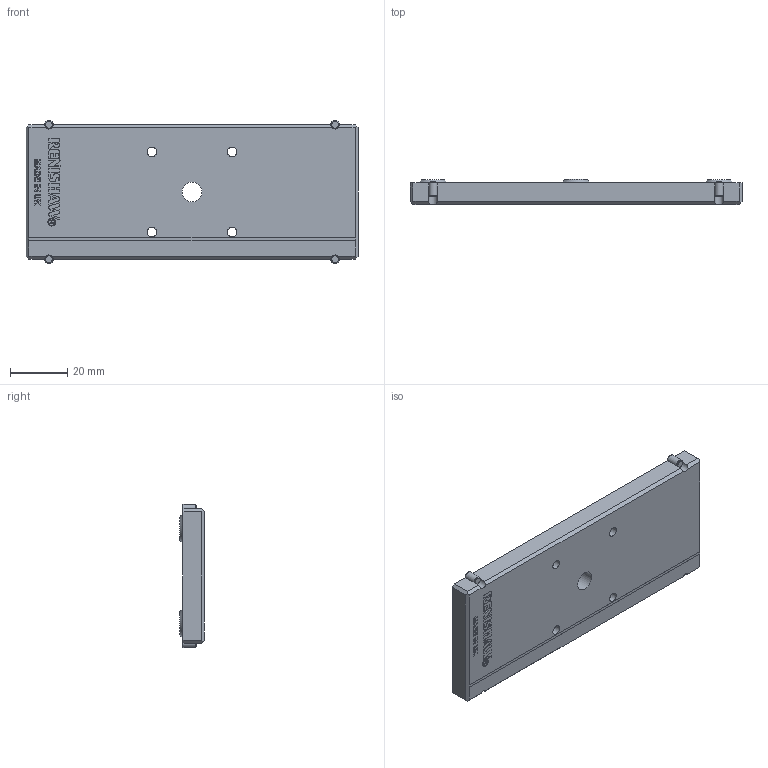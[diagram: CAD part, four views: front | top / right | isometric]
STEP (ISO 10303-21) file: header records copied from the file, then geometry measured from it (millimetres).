
FILE_DESCRIPTION(/* description */ (''),/* implementation_level */ '2;1');
FILE_NAME(/* name */ 'LA-8003-0257-A.stp',/* time_stamp */ '2015-03-31T11:27:48+01:00',/* author */ (''),/* organization */ (''),/* preprocessor_version */ 'ST-DEVELOPER v11',/* originating_system */ 'SIEMENS PLM Software NX 7.5',/* authorisation */ '');
FILE_SCHEMA (('AP203_CONFIGURATION_CONTROLLED_3D_DESIGN_OF_MECHANICAL_PARTS_AND_ASSEMBLIES_MIM_LF'));
Length unit declared in the file: millimetre
Products named in the file (1): da13E7542jwf
Bounding box: 116 x 8.7 x 50 mm (x, y, z)
Volume: 31959.2 mm3; surface area: 16138.3 mm2
Topology: 1 solids, 1 shells, 359 faces, 943 edges, 621 vertices
Faces by surface type: plane 238, extrusion 72, cylinder 35, cone 14
Full cylindrical faces by diameter (mm): 2.3 x1, 2.7 x1, 3.3 x4, 6 x4, 6.9 x1, 9.93 x3, 10.05 x3
Entity records: 11350 total; most frequent: CARTESIAN_POINT 2392, ORIENTED_EDGE 1810, DIRECTION 1505, EDGE_CURVE 905, VECTOR 737, LINE 665, VERTEX_POINT 614, EDGE_LOOP 435
